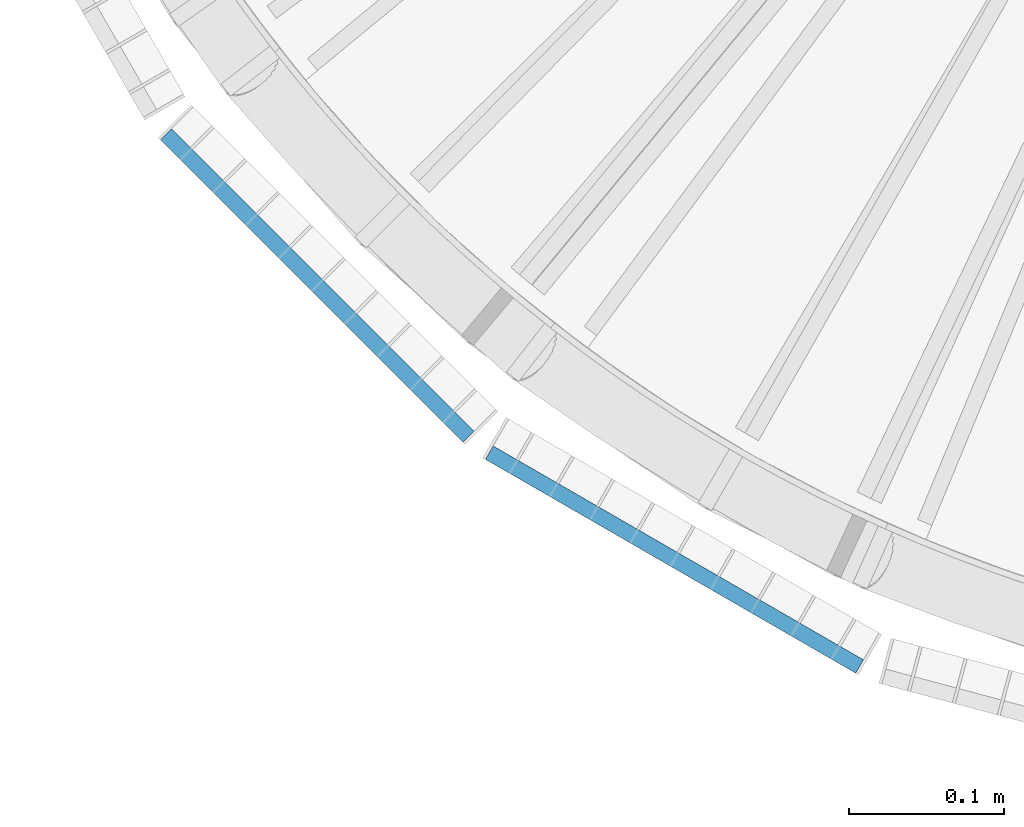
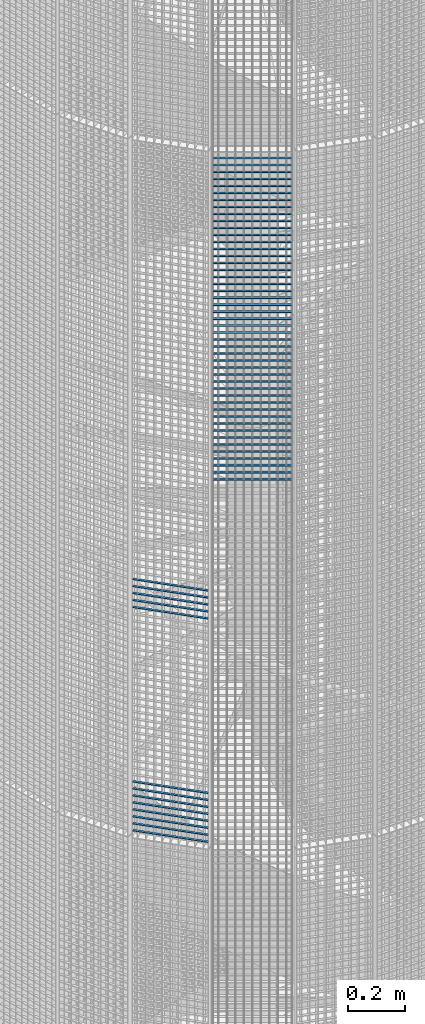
# One storey, part 345 of 1148: 60 beams, 2 elements without a shape of their own.
"""IFC2X3 building model written with IfcOpenShell, lengths in millimetres."""

import ifcopenshell
import ifcopenshell.guid

model = None  # the IFC model being written
_history = None  # IfcOwnerHistory: only IFC2X3 demands one
_inside = {}  # id of a spatial element -> (the spatial element, [elements in it])
_under = {}  # id of a project, library or spatial element -> (it, [spatial elements below it])
_declared = {}  # id of a project -> (the project, [libraries it declares])
_typed = {}  # id of a type object -> (the type object, [elements of that type])
_made_of = {}  # id of a material, layer set ... -> (it, [elements and type objects made of it])


def new_model(schema):
    """Start an empty IFC model of exactly this schema.

    Asked for "IFC4X3", IfcOpenShell would pick the latest addendum, in which some entities
    have other attributes; the version numbers below select the first issue.
    IFC2X3 requires an IfcOwnerHistory on every rooted entity: one is made here for all.
    """
    global model, _history
    if schema == "IFC4X3":
        model = ifcopenshell.file(schema_version=(4, 3, 0, 0))
    else:
        model = ifcopenshell.file(schema=schema)
    _inside.clear()
    _under.clear()
    _declared.clear()
    _typed.clear()
    _made_of.clear()
    _history = None
    if model.schema == "IFC2X3":
        org = make("IfcOrganization", Name="unknown")
        user = make(
            "IfcPersonAndOrganization",
            ThePerson=make("IfcPerson", FamilyName="unknown"),
            TheOrganization=org,
        )
        app = make(
            "IfcApplication",
            ApplicationDeveloper=org,
            Version="unknown",
            ApplicationFullName="unknown",
            ApplicationIdentifier="unknown",
        )
        _history = make(
            "IfcOwnerHistory",
            OwningUser=user,
            OwningApplication=app,
            ChangeAction="ADDED",
            CreationDate=0,
        )
    return model


def make(cls, **values):
    """One entity of the class cls with the attributes given. An attribute that is None is left unset."""
    return model.create_entity(
        cls, **{name: value for name, value in values.items() if value is not None}
    )


def rooted(cls, **values):
    """An entity with a GlobalId (a new one), such as an element, a storey or a relation."""
    return make(cls, GlobalId=ifcopenshell.guid.new(), OwnerHistory=_history, **values)


def si_unit(unit_type, name, prefix=None):
    """IfcSIUnit, for example si_unit("LENGTHUNIT", "METRE", prefix="MILLI")."""
    return make("IfcSIUnit", UnitType=unit_type, Prefix=prefix, Name=name)


def assignment(units):
    """IfcUnitAssignment: the units of a project."""
    return None if units is None else make("IfcUnitAssignment", Units=units)


def point(xyz):
    """IfcCartesianPoint."""
    return None if xyz is None else make("IfcCartesianPoint", Coordinates=xyz)


def direction(xyz):
    """IfcDirection."""
    return None if xyz is None else make("IfcDirection", DirectionRatios=xyz)


def frame(location, z_axis=None, x_axis=None):
    """IfcAxis2Placement3D, a coordinate frame: its origin and axes. An axis left out is left unset."""
    return make(
        "IfcAxis2Placement3D",
        Location=point(location),
        Axis=direction(z_axis),
        RefDirection=direction(x_axis),
    )


def frame_2d(location, x_axis=None):
    """IfcAxis2Placement2D, a coordinate frame in the plane: its origin and x axis."""
    return make(
        "IfcAxis2Placement2D", Location=point(location), RefDirection=direction(x_axis)
    )


def origin_with_axes():
    """The frame at (0, 0, 0) with the z axis (0, 0, 1) and the x axis (1, 0, 0) written out."""
    return frame((0.0, 0.0, 0.0), z_axis=(0.0, 0.0, 1.0), x_axis=(1.0, 0.0, 0.0))


def origin_2d_with_axis():
    """The frame at (0, 0) in the plane with the x axis (1, 0) written out."""
    return frame_2d((0.0, 0.0), x_axis=(1.0, 0.0))


def place(relative_to, where):
    """IfcLocalPlacement: puts the frame where relative to a parent placement (None: the world)."""
    return make(
        "IfcLocalPlacement", PlacementRelTo=relative_to, RelativePlacement=where
    )


def context(
    kind, dimensions, precision=None, world=None, true_north=None, identifier=None
):
    """IfcGeometricRepresentationContext, for example the 3D "Model" context."""
    return make(
        "IfcGeometricRepresentationContext",
        ContextIdentifier=identifier,
        ContextType=kind,
        CoordinateSpaceDimension=dimensions,
        Precision=precision,
        WorldCoordinateSystem=world,
        TrueNorth=true_north,
    )


def subcontext(parent, identifier, kind, view, scale=None):
    """IfcGeometricRepresentationSubContext, for example "Body" below "Model"."""
    return make(
        "IfcGeometricRepresentationSubContext",
        ContextIdentifier=identifier,
        ContextType=kind,
        ParentContext=parent,
        TargetScale=scale,
        TargetView=view,
    )


def project(units=None, contexts=None):
    """IfcProject with its units and contexts."""
    return rooted(
        "IfcProject",
        Name="project",
        RepresentationContexts=contexts,
        UnitsInContext=assignment(units),
    )


def spatial(cls, under=None, at=None, **own):
    """A site, building, storey or space (cls), placed at a placement, below another one or the project."""
    s = rooted(cls, ObjectPlacement=at, **own)
    if under is not None:
        _under.setdefault(under.id(), (under, []))[1].append(s)
    return s


def profile(cls, at=None, kind="AREA", **sizes):
    """A parametric profile (cls). Its sizes go by their IFC names, for example OverallWidth=200.0."""
    return make(cls, ProfileType=kind, Position=at, **sizes)


def rectangle(**sizes):
    """IfcRectangleProfileDef."""
    return profile("IfcRectangleProfileDef", **sizes)


def extrude(swept, where, along, depth):
    """IfcExtrudedAreaSolid: the profile swept, set in the frame where, extruded along a direction by depth."""
    return make(
        "IfcExtrudedAreaSolid",
        SweptArea=swept,
        Position=where,
        ExtrudedDirection=direction(along),
        Depth=depth,
    )


def shape(context_of_items, identifier, shape_type, items):
    """IfcShapeRepresentation: the items that make up one representation, for example the "Body"."""
    return make(
        "IfcShapeRepresentation",
        ContextOfItems=context_of_items,
        RepresentationIdentifier=identifier,
        RepresentationType=shape_type,
        Items=items,
    )


def material(Name=None, Category=None):
    """IfcMaterial."""
    return make("IfcMaterial", Name=Name, Category=Category)


def made_of(thing, what):
    """Note that an element or type object is made of a material, layer set ...; save() writes the relation."""
    if what is not None:
        _made_of.setdefault(what.id(), (what, []))[1].append(thing)
    return thing


def type_object(cls, material=None, **own):
    """A type object (cls), such as IfcWallType, which elements share."""
    return made_of(rooted(cls, **own), material)


def element(
    cls,
    number,
    at=None,
    inside=None,
    cuts=None,
    type_object=None,
    material=None,
    context=None,
    identifier="Body",
    shape_type=None,
    held_by="IfcProductDefinitionShape",
    body=None,
    shapes=None,
    **own,
):
    """One element of the class cls, such as IfcWall. Its Tag is "e" and its number.

    at: its placement. inside: the storey or other place that contains it. cuts: it is an
    opening in that element (IfcRelVoidsElement). A single representation is given by context,
    identifier, shape_type and body (its items); several are given by shapes. held_by: the class
    of the entity that holds the representations. save() writes the other relations.
    """
    e = rooted(cls, Tag="e%d" % number, ObjectPlacement=at, **own)
    if body is not None:
        shapes = [shape(context, identifier, shape_type, body)]
    if shapes is not None:
        e.Representation = make(held_by, Representations=shapes)
    if inside is not None:
        _inside.setdefault(inside.id(), (inside, []))[1].append(e)
    if cuts is not None:
        rooted(
            "IfcRelVoidsElement", RelatingBuildingElement=cuts, RelatedOpeningElement=e
        )
    if type_object is not None:
        _typed.setdefault(type_object.id(), (type_object, []))[1].append(e)
    return made_of(e, material)


def aggregate(whole, parts):
    """IfcRelAggregates: a whole, such as a stair, and the parts it consists of."""
    return rooted("IfcRelAggregates", RelatingObject=whole, RelatedObjects=parts)


def save(model, path):
    """Write the relations noted so far, then the file.

    IfcRelAggregates (storeys below a building ...), IfcRelContainedInSpatialStructure (elements
    in a storey), IfcRelDefinesByType, IfcRelAssociatesMaterial and IfcRelDeclares: one each for
    every whole, place, type object, material and project.
    """
    for whole, parts in _under.values():
        aggregate(whole, parts)
    for where, things in _inside.values():
        rooted(
            "IfcRelContainedInSpatialStructure",
            RelatedElements=things,
            RelatingStructure=where,
        )
    for kind, things in _typed.values():
        rooted("IfcRelDefinesByType", RelatedObjects=things, RelatingType=kind)
    for what, things in _made_of.values():
        rooted("IfcRelAssociatesMaterial", RelatedObjects=things, RelatingMaterial=what)
    for by, libraries in _declared.values():
        rooted("IfcRelDeclares", RelatingContext=by, RelatedDefinitions=libraries)
    model.write(path)


model = new_model("IFC2X3")

# Units and contexts
model_context = context("Model", 3, precision=1e-05, world=origin_with_axes())
body_context = subcontext(model_context, "Body", "Model", "MODEL_VIEW")
ifc_project = project(units=[si_unit("LENGTHUNIT", "METRE", prefix="MILLI"), si_unit("AREAUNIT", "SQUARE_METRE"), si_unit("VOLUMEUNIT", "CUBIC_METRE"), si_unit("MASSUNIT", "GRAM", prefix="KILO"), si_unit("TIMEUNIT", "SECOND"), si_unit("PLANEANGLEUNIT", "RADIAN"), si_unit("SOLIDANGLEUNIT", "STERADIAN"), si_unit("THERMODYNAMICTEMPERATUREUNIT", "DEGREE_CELSIUS"), si_unit("LUMINOUSINTENSITYUNIT", "LUMEN")], contexts=[model_context])

# Site, building, storey
site_placement = place(None, origin_with_axes())
site = spatial("IfcSite", under=ifc_project, at=site_placement, Name="Undefined", CompositionType="ELEMENT")
building_placement = place(site_placement, origin_with_axes())
building = spatial("IfcBuilding", under=site, at=building_placement, Name="Undefined", CompositionType="ELEMENT")
storey_placement = place(building_placement, origin_with_axes())
storey = spatial("IfcBuildingStorey", under=building, at=storey_placement, Name="Undefined", CompositionType="ELEMENT", Elevation=0.0)

# Assembly, beams
assembly_1_placement = place(storey_placement, origin_with_axes())
assembly_1 = element("IfcElementAssembly", 1, at=assembly_1_placement, inside=storey, Name="BORDURE", AssemblyPlace="NOTDEFINED", PredefinedType="NOTDEFINED")
ifc_material = material(Name="STEEL/S235JR")
beam_type = type_object("IfcBeamType", Name="PL2*10", PredefinedType="NOTDEFINED")
beam_1_placement = place(assembly_1_placement, frame((20910.2286510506, -884.927168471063, 9990.0), z_axis=(-0.70710678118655, -0.707106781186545, 0.0), x_axis=(-0.707106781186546, 0.707106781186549, 0.0)))
beam_1 = element("IfcBeam", 2, at=beam_1_placement, type_object=beam_type, material=ifc_material, Name="ENTRETOISE", context=body_context, shape_type="SweptSolid", body=[
    extrude(rectangle(XDim=2.0, YDim=10.0, at=origin_2d_with_axis()), frame((275.999999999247, 9.09494701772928e-13, 1.53210777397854e-14), z_axis=(-1.0, 0.0, 0.0), x_axis=(0.0, -1.0, 0.0)), (0.0, 0.0, 1.0), 276.0),
])
beam_2_placement = place(assembly_1_placement, frame((20910.2286510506, -884.927168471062, 9240.0), z_axis=(-0.70710678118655, -0.707106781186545, 0.0), x_axis=(-0.707106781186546, 0.707106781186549, 0.0)))
beam_2 = element("IfcBeam", 3, at=beam_2_placement, type_object=beam_type, material=ifc_material, Name="ENTRETOISE", context=body_context, shape_type="SweptSolid", body=[
    extrude(rectangle(XDim=2.0, YDim=10.0, at=origin_2d_with_axis()), frame((275.999999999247, 9.09494701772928e-13, 1.53210777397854e-14), z_axis=(-1.0, 0.0, 0.0), x_axis=(0.0, -1.0, 0.0)), (0.0, 0.0, 1.0), 276.0),
])
beam_3_placement = place(assembly_1_placement, frame((20910.2286510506, -884.927168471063, 10020.0), z_axis=(-0.70710678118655, -0.707106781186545, 0.0), x_axis=(-0.707106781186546, 0.707106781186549, 0.0)))
beam_3 = element("IfcBeam", 4, at=beam_3_placement, type_object=beam_type, material=ifc_material, Name="ENTRETOISE", context=body_context, shape_type="SweptSolid", body=[
    extrude(rectangle(XDim=2.0, YDim=10.0, at=origin_2d_with_axis()), frame((275.999999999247, 9.09494701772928e-13, 1.53210777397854e-14), z_axis=(-1.0, 0.0, 0.0), x_axis=(0.0, -1.0, 0.0)), (0.0, 0.0, 1.0), 276.0),
])
beam_4_placement = place(assembly_1_placement, frame((20910.2286510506, -884.927168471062, 9210.0), z_axis=(-0.70710678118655, -0.707106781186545, 0.0), x_axis=(-0.707106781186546, 0.707106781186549, 0.0)))
beam_4 = element("IfcBeam", 5, at=beam_4_placement, type_object=beam_type, material=ifc_material, Name="ENTRETOISE", context=body_context, shape_type="SweptSolid", body=[
    extrude(rectangle(XDim=2.0, YDim=10.0, at=origin_2d_with_axis()), frame((275.999999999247, 9.09494701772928e-13, 1.53210777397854e-14), z_axis=(-1.0, 0.0, 0.0), x_axis=(0.0, -1.0, 0.0)), (0.0, 0.0, 1.0), 276.0),
])
beam_5_placement = place(assembly_1_placement, frame((20910.2286510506, -884.927168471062, 9180.0), z_axis=(-0.70710678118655, -0.707106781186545, 0.0), x_axis=(-0.707106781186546, 0.707106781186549, 0.0)))
beam_5 = element("IfcBeam", 6, at=beam_5_placement, type_object=beam_type, material=ifc_material, Name="ENTRETOISE", context=body_context, shape_type="SweptSolid", body=[
    extrude(rectangle(XDim=2.0, YDim=10.0, at=origin_2d_with_axis()), frame((275.999999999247, 9.09494701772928e-13, 1.53210777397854e-14), z_axis=(-1.0, 0.0, 0.0), x_axis=(0.0, -1.0, 0.0)), (0.0, 0.0, 1.0), 276.0),
])
beam_6_placement = place(assembly_1_placement, frame((20910.2286510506, -884.927168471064, 10050.0), z_axis=(-0.70710678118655, -0.707106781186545, 0.0), x_axis=(-0.707106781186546, 0.707106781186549, 0.0)))
beam_6 = element("IfcBeam", 7, at=beam_6_placement, type_object=beam_type, material=ifc_material, Name="ENTRETOISE", context=body_context, shape_type="SweptSolid", body=[
    extrude(rectangle(XDim=2.0, YDim=10.0, at=origin_2d_with_axis()), frame((275.999999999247, 9.09494701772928e-13, 1.53210777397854e-14), z_axis=(-1.0, 0.0, 0.0), x_axis=(0.0, -1.0, 0.0)), (0.0, 0.0, 1.0), 276.0),
])
beam_7_placement = place(assembly_1_placement, frame((20910.2286510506, -884.927168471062, 9150.0), z_axis=(-0.70710678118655, -0.707106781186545, 0.0), x_axis=(-0.707106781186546, 0.707106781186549, 0.0)))
beam_7 = element("IfcBeam", 8, at=beam_7_placement, type_object=beam_type, material=ifc_material, Name="ENTRETOISE", context=body_context, shape_type="SweptSolid", body=[
    extrude(rectangle(XDim=2.0, YDim=10.0, at=origin_2d_with_axis()), frame((275.999999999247, 9.09494701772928e-13, 1.53210777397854e-14), z_axis=(-1.0, 0.0, 0.0), x_axis=(0.0, -1.0, 0.0)), (0.0, 0.0, 1.0), 276.0),
])
beam_8_placement = place(assembly_1_placement, frame((20910.2286510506, -884.927168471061, 9120.0), z_axis=(-0.70710678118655, -0.707106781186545, 0.0), x_axis=(-0.707106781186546, 0.707106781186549, 0.0)))
beam_8 = element("IfcBeam", 9, at=beam_8_placement, type_object=beam_type, material=ifc_material, Name="ENTRETOISE", context=body_context, shape_type="SweptSolid", body=[
    extrude(rectangle(XDim=2.0, YDim=10.0, at=origin_2d_with_axis()), frame((275.999999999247, 9.09494701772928e-13, 1.53210777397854e-14), z_axis=(-1.0, 0.0, 0.0), x_axis=(0.0, -1.0, 0.0)), (0.0, 0.0, 1.0), 276.0),
])
beam_9_placement = place(assembly_1_placement, frame((20910.2286510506, -884.927168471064, 10080.0), z_axis=(-0.70710678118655, -0.707106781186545, 0.0), x_axis=(-0.707106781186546, 0.707106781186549, 0.0)))
beam_9 = element("IfcBeam", 10, at=beam_9_placement, type_object=beam_type, material=ifc_material, Name="ENTRETOISE", context=body_context, shape_type="SweptSolid", body=[
    extrude(rectangle(XDim=2.0, YDim=10.0, at=origin_2d_with_axis()), frame((275.999999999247, 9.09494701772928e-13, 1.53210777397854e-14), z_axis=(-1.0, 0.0, 0.0), x_axis=(0.0, -1.0, 0.0)), (0.0, 0.0, 1.0), 276.0),
])
beam_10_placement = place(assembly_1_placement, frame((20910.2286510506, -884.927168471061, 9090.0), z_axis=(-0.70710678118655, -0.707106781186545, 0.0), x_axis=(-0.707106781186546, 0.707106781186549, 0.0)))
beam_10 = element("IfcBeam", 11, at=beam_10_placement, type_object=beam_type, material=ifc_material, Name="ENTRETOISE", context=body_context, shape_type="SweptSolid", body=[
    extrude(rectangle(XDim=2.0, YDim=10.0, at=origin_2d_with_axis()), frame((275.999999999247, 9.09494701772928e-13, 1.53210777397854e-14), z_axis=(-1.0, 0.0, 0.0), x_axis=(0.0, -1.0, 0.0)), (0.0, 0.0, 1.0), 276.0),
])
beam_11_placement = place(assembly_1_placement, frame((20910.2286510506, -884.927168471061, 9060.0), z_axis=(-0.70710678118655, -0.707106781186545, 0.0), x_axis=(-0.707106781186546, 0.707106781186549, 0.0)))
beam_11 = element("IfcBeam", 12, at=beam_11_placement, type_object=beam_type, material=ifc_material, Name="ENTRETOISE", context=body_context, shape_type="SweptSolid", body=[
    extrude(rectangle(XDim=2.0, YDim=10.0, at=origin_2d_with_axis()), frame((275.999999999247, 9.09494701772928e-13, 1.53210777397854e-14), z_axis=(-1.0, 0.0, 0.0), x_axis=(0.0, -1.0, 0.0)), (0.0, 0.0, 1.0), 276.0),
])
beam_12_placement = place(assembly_1_placement, frame((20910.2286510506, -884.927168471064, 10110.0), z_axis=(-0.70710678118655, -0.707106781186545, 0.0), x_axis=(-0.707106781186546, 0.707106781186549, 0.0)))
beam_12 = element("IfcBeam", 13, at=beam_12_placement, type_object=beam_type, material=ifc_material, Name="ENTRETOISE", context=body_context, shape_type="SweptSolid", body=[
    extrude(rectangle(XDim=2.0, YDim=10.0, at=origin_2d_with_axis()), frame((275.999999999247, 9.09494701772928e-13, 1.53210777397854e-14), z_axis=(-1.0, 0.0, 0.0), x_axis=(0.0, -1.0, 0.0)), (0.0, 0.0, 1.0), 276.0),
])
beam_13_placement = place(assembly_1_placement, frame((20910.2286510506, -884.92716847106, 9030.0), z_axis=(-0.70710678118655, -0.707106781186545, 0.0), x_axis=(-0.707106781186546, 0.707106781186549, 0.0)))
beam_13 = element("IfcBeam", 14, at=beam_13_placement, type_object=beam_type, material=ifc_material, Name="ENTRETOISE", context=body_context, shape_type="SweptSolid", body=[
    extrude(rectangle(XDim=2.0, YDim=10.0, at=origin_2d_with_axis()), frame((275.999999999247, 9.09494701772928e-13, 1.53210777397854e-14), z_axis=(-1.0, 0.0, 0.0), x_axis=(0.0, -1.0, 0.0)), (0.0, 0.0, 1.0), 276.0),
])
aggregate(assembly_1, [beam_1, beam_2, beam_3, beam_4, beam_5, beam_6, beam_7, beam_8, beam_9, beam_10, beam_11, beam_12, beam_13])

assembly_2_placement = place(storey_placement, origin_with_axes())
assembly_2 = element("IfcElementAssembly", 15, at=assembly_2_placement, inside=storey, Name="BORDURE", AssemblyPlace="NOTDEFINED", PredefinedType="NOTDEFINED")
beam_14_placement = place(assembly_2_placement, frame((21162.7680445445, -1033.29996828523, 11970.0), z_axis=(-0.49999999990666, -0.866025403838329, 0.0), x_axis=(-0.866025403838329, 0.499999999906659, 0.0)))
beam_14 = element("IfcBeam", 16, at=beam_14_placement, type_object=beam_type, material=ifc_material, Name="ENTRETOISE", context=body_context, shape_type="SweptSolid", body=[
    extrude(rectangle(XDim=2.0, YDim=10.0, at=origin_2d_with_axis()), frame((275.999999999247, 9.09494701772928e-13, 1.53210777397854e-14), z_axis=(-1.0, 0.0, 0.0), x_axis=(0.0, -1.0, 0.0)), (0.0, 0.0, 1.0), 276.0),
])
beam_15_placement = place(assembly_2_placement, frame((21162.7680445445, -1033.29996828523, 11940.0), z_axis=(-0.49999999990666, -0.866025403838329, 0.0), x_axis=(-0.866025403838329, 0.499999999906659, 0.0)))
beam_15 = element("IfcBeam", 17, at=beam_15_placement, type_object=beam_type, material=ifc_material, Name="ENTRETOISE", context=body_context, shape_type="SweptSolid", body=[
    extrude(rectangle(XDim=2.0, YDim=10.0, at=origin_2d_with_axis()), frame((275.999999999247, 9.09494701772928e-13, 1.53210777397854e-14), z_axis=(-1.0, 0.0, 0.0), x_axis=(0.0, -1.0, 0.0)), (0.0, 0.0, 1.0), 276.0),
])
beam_16_placement = place(assembly_2_placement, frame((21162.7680445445, -1033.29996828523, 11910.0), z_axis=(-0.49999999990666, -0.866025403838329, 0.0), x_axis=(-0.866025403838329, 0.499999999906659, 0.0)))
beam_16 = element("IfcBeam", 18, at=beam_16_placement, type_object=beam_type, material=ifc_material, Name="ENTRETOISE", context=body_context, shape_type="SweptSolid", body=[
    extrude(rectangle(XDim=2.0, YDim=10.0, at=origin_2d_with_axis()), frame((275.999999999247, 9.09494701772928e-13, 1.53210777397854e-14), z_axis=(-1.0, 0.0, 0.0), x_axis=(0.0, -1.0, 0.0)), (0.0, 0.0, 1.0), 276.0),
])
beam_17_placement = place(assembly_2_placement, frame((21162.7680445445, -1033.29996828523, 11880.0), z_axis=(-0.49999999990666, -0.866025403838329, 0.0), x_axis=(-0.866025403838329, 0.499999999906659, 0.0)))
beam_17 = element("IfcBeam", 19, at=beam_17_placement, type_object=beam_type, material=ifc_material, Name="ENTRETOISE", context=body_context, shape_type="SweptSolid", body=[
    extrude(rectangle(XDim=2.0, YDim=10.0, at=origin_2d_with_axis()), frame((275.999999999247, 9.09494701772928e-13, 1.53210777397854e-14), z_axis=(-1.0, 0.0, 0.0), x_axis=(0.0, -1.0, 0.0)), (0.0, 0.0, 1.0), 276.0),
])
beam_18_placement = place(assembly_2_placement, frame((21162.7680445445, -1033.29996828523, 11850.0), z_axis=(-0.49999999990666, -0.866025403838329, 0.0), x_axis=(-0.866025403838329, 0.499999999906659, 0.0)))
beam_18 = element("IfcBeam", 20, at=beam_18_placement, type_object=beam_type, material=ifc_material, Name="ENTRETOISE", context=body_context, shape_type="SweptSolid", body=[
    extrude(rectangle(XDim=2.0, YDim=10.0, at=origin_2d_with_axis()), frame((275.999999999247, 9.09494701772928e-13, 1.53210777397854e-14), z_axis=(-1.0, 0.0, 0.0), x_axis=(0.0, -1.0, 0.0)), (0.0, 0.0, 1.0), 276.0),
])
beam_19_placement = place(assembly_2_placement, frame((21162.7680445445, -1033.29996828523, 11820.0), z_axis=(-0.49999999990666, -0.866025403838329, 0.0), x_axis=(-0.866025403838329, 0.499999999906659, 0.0)))
beam_19 = element("IfcBeam", 21, at=beam_19_placement, type_object=beam_type, material=ifc_material, Name="ENTRETOISE", context=body_context, shape_type="SweptSolid", body=[
    extrude(rectangle(XDim=2.0, YDim=10.0, at=origin_2d_with_axis()), frame((275.999999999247, 9.09494701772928e-13, 1.53210777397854e-14), z_axis=(-1.0, 0.0, 0.0), x_axis=(0.0, -1.0, 0.0)), (0.0, 0.0, 1.0), 276.0),
])
beam_20_placement = place(assembly_2_placement, frame((21162.7680445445, -1033.29996828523, 11790.0), z_axis=(-0.49999999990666, -0.866025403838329, 0.0), x_axis=(-0.866025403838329, 0.499999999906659, 0.0)))
beam_20 = element("IfcBeam", 22, at=beam_20_placement, type_object=beam_type, material=ifc_material, Name="ENTRETOISE", context=body_context, shape_type="SweptSolid", body=[
    extrude(rectangle(XDim=2.0, YDim=10.0, at=origin_2d_with_axis()), frame((275.999999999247, 9.09494701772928e-13, 1.53210777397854e-14), z_axis=(-1.0, 0.0, 0.0), x_axis=(0.0, -1.0, 0.0)), (0.0, 0.0, 1.0), 276.0),
])
beam_21_placement = place(assembly_2_placement, frame((21162.7680445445, -1033.29996828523, 11760.0), z_axis=(-0.49999999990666, -0.866025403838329, 0.0), x_axis=(-0.866025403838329, 0.499999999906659, 0.0)))
beam_21 = element("IfcBeam", 23, at=beam_21_placement, type_object=beam_type, material=ifc_material, Name="ENTRETOISE", context=body_context, shape_type="SweptSolid", body=[
    extrude(rectangle(XDim=2.0, YDim=10.0, at=origin_2d_with_axis()), frame((275.999999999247, 9.09494701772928e-13, 1.53210777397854e-14), z_axis=(-1.0, 0.0, 0.0), x_axis=(0.0, -1.0, 0.0)), (0.0, 0.0, 1.0), 276.0),
])
beam_22_placement = place(assembly_2_placement, frame((21162.7680445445, -1033.29996828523, 11730.0), z_axis=(-0.49999999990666, -0.866025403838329, 0.0), x_axis=(-0.866025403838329, 0.499999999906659, 0.0)))
beam_22 = element("IfcBeam", 24, at=beam_22_placement, type_object=beam_type, material=ifc_material, Name="ENTRETOISE", context=body_context, shape_type="SweptSolid", body=[
    extrude(rectangle(XDim=2.0, YDim=10.0, at=origin_2d_with_axis()), frame((275.999999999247, 9.09494701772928e-13, 1.53210777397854e-14), z_axis=(-1.0, 0.0, 0.0), x_axis=(0.0, -1.0, 0.0)), (0.0, 0.0, 1.0), 276.0),
])
beam_23_placement = place(assembly_2_placement, frame((21162.7680445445, -1033.29996828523, 11700.0), z_axis=(-0.49999999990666, -0.866025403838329, 0.0), x_axis=(-0.866025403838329, 0.499999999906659, 0.0)))
beam_23 = element("IfcBeam", 25, at=beam_23_placement, type_object=beam_type, material=ifc_material, Name="ENTRETOISE", context=body_context, shape_type="SweptSolid", body=[
    extrude(rectangle(XDim=2.0, YDim=10.0, at=origin_2d_with_axis()), frame((275.999999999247, 9.09494701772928e-13, 1.53210777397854e-14), z_axis=(-1.0, 0.0, 0.0), x_axis=(0.0, -1.0, 0.0)), (0.0, 0.0, 1.0), 276.0),
])
beam_24_placement = place(assembly_2_placement, frame((21162.7680445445, -1033.29996828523, 11670.0), z_axis=(-0.49999999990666, -0.866025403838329, 0.0), x_axis=(-0.866025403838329, 0.499999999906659, 0.0)))
beam_24 = element("IfcBeam", 26, at=beam_24_placement, type_object=beam_type, material=ifc_material, Name="ENTRETOISE", context=body_context, shape_type="SweptSolid", body=[
    extrude(rectangle(XDim=2.0, YDim=10.0, at=origin_2d_with_axis()), frame((275.999999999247, 9.09494701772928e-13, 1.53210777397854e-14), z_axis=(-1.0, 0.0, 0.0), x_axis=(0.0, -1.0, 0.0)), (0.0, 0.0, 1.0), 276.0),
])
beam_25_placement = place(assembly_2_placement, frame((21162.7680445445, -1033.29996828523, 11640.0), z_axis=(-0.49999999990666, -0.866025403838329, 0.0), x_axis=(-0.866025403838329, 0.499999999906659, 0.0)))
beam_25 = element("IfcBeam", 27, at=beam_25_placement, type_object=beam_type, material=ifc_material, Name="ENTRETOISE", context=body_context, shape_type="SweptSolid", body=[
    extrude(rectangle(XDim=2.0, YDim=10.0, at=origin_2d_with_axis()), frame((275.999999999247, 9.09494701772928e-13, 1.53210777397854e-14), z_axis=(-1.0, 0.0, 0.0), x_axis=(0.0, -1.0, 0.0)), (0.0, 0.0, 1.0), 276.0),
])
beam_26_placement = place(assembly_2_placement, frame((21162.7680445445, -1033.29996828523, 11610.0), z_axis=(-0.49999999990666, -0.866025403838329, 0.0), x_axis=(-0.866025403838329, 0.499999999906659, 0.0)))
beam_26 = element("IfcBeam", 28, at=beam_26_placement, type_object=beam_type, material=ifc_material, Name="ENTRETOISE", context=body_context, shape_type="SweptSolid", body=[
    extrude(rectangle(XDim=2.0, YDim=10.0, at=origin_2d_with_axis()), frame((275.999999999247, 9.09494701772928e-13, 1.53210777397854e-14), z_axis=(-1.0, 0.0, 0.0), x_axis=(0.0, -1.0, 0.0)), (0.0, 0.0, 1.0), 276.0),
])
beam_27_placement = place(assembly_2_placement, frame((21162.7680445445, -1033.29996828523, 11580.0), z_axis=(-0.49999999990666, -0.866025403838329, 0.0), x_axis=(-0.866025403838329, 0.499999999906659, 0.0)))
beam_27 = element("IfcBeam", 29, at=beam_27_placement, type_object=beam_type, material=ifc_material, Name="ENTRETOISE", context=body_context, shape_type="SweptSolid", body=[
    extrude(rectangle(XDim=2.0, YDim=10.0, at=origin_2d_with_axis()), frame((275.999999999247, 9.09494701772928e-13, 1.53210777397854e-14), z_axis=(-1.0, 0.0, 0.0), x_axis=(0.0, -1.0, 0.0)), (0.0, 0.0, 1.0), 276.0),
])
beam_28_placement = place(assembly_2_placement, frame((21162.7680445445, -1033.29996828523, 11550.0), z_axis=(-0.49999999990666, -0.866025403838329, 0.0), x_axis=(-0.866025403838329, 0.499999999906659, 0.0)))
beam_28 = element("IfcBeam", 30, at=beam_28_placement, type_object=beam_type, material=ifc_material, Name="ENTRETOISE", context=body_context, shape_type="SweptSolid", body=[
    extrude(rectangle(XDim=2.0, YDim=10.0, at=origin_2d_with_axis()), frame((275.999999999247, 9.09494701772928e-13, 1.53210777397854e-14), z_axis=(-1.0, 0.0, 0.0), x_axis=(0.0, -1.0, 0.0)), (0.0, 0.0, 1.0), 276.0),
])
beam_29_placement = place(assembly_2_placement, frame((21162.7680445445, -1033.29996828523, 11520.0), z_axis=(-0.49999999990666, -0.866025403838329, 0.0), x_axis=(-0.866025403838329, 0.499999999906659, 0.0)))
beam_29 = element("IfcBeam", 31, at=beam_29_placement, type_object=beam_type, material=ifc_material, Name="ENTRETOISE", context=body_context, shape_type="SweptSolid", body=[
    extrude(rectangle(XDim=2.0, YDim=10.0, at=origin_2d_with_axis()), frame((275.999999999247, 9.09494701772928e-13, 1.53210777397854e-14), z_axis=(-1.0, 0.0, 0.0), x_axis=(0.0, -1.0, 0.0)), (0.0, 0.0, 1.0), 276.0),
])
beam_30_placement = place(assembly_2_placement, frame((21162.7680445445, -1033.29996828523, 11490.0), z_axis=(-0.49999999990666, -0.866025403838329, 0.0), x_axis=(-0.866025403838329, 0.499999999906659, 0.0)))
beam_30 = element("IfcBeam", 32, at=beam_30_placement, type_object=beam_type, material=ifc_material, Name="ENTRETOISE", context=body_context, shape_type="SweptSolid", body=[
    extrude(rectangle(XDim=2.0, YDim=10.0, at=origin_2d_with_axis()), frame((275.999999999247, 9.09494701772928e-13, 1.53210777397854e-14), z_axis=(-1.0, 0.0, 0.0), x_axis=(0.0, -1.0, 0.0)), (0.0, 0.0, 1.0), 276.0),
])
beam_31_placement = place(assembly_2_placement, frame((21162.7680445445, -1033.29996828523, 11460.0), z_axis=(-0.49999999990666, -0.866025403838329, 0.0), x_axis=(-0.866025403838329, 0.499999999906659, 0.0)))
beam_31 = element("IfcBeam", 33, at=beam_31_placement, type_object=beam_type, material=ifc_material, Name="ENTRETOISE", context=body_context, shape_type="SweptSolid", body=[
    extrude(rectangle(XDim=2.0, YDim=10.0, at=origin_2d_with_axis()), frame((275.999999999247, 9.09494701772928e-13, 1.53210777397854e-14), z_axis=(-1.0, 0.0, 0.0), x_axis=(0.0, -1.0, 0.0)), (0.0, 0.0, 1.0), 276.0),
])
beam_32_placement = place(assembly_2_placement, frame((21162.7680445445, -1033.29996828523, 11430.0), z_axis=(-0.49999999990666, -0.866025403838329, 0.0), x_axis=(-0.866025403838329, 0.499999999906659, 0.0)))
beam_32 = element("IfcBeam", 34, at=beam_32_placement, type_object=beam_type, material=ifc_material, Name="ENTRETOISE", context=body_context, shape_type="SweptSolid", body=[
    extrude(rectangle(XDim=2.0, YDim=10.0, at=origin_2d_with_axis()), frame((275.999999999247, 9.09494701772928e-13, 1.53210777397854e-14), z_axis=(-1.0, 0.0, 0.0), x_axis=(0.0, -1.0, 0.0)), (0.0, 0.0, 1.0), 276.0),
])
beam_33_placement = place(assembly_2_placement, frame((21162.7680445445, -1033.29996828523, 11400.0), z_axis=(-0.49999999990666, -0.866025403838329, 0.0), x_axis=(-0.866025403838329, 0.499999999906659, 0.0)))
beam_33 = element("IfcBeam", 35, at=beam_33_placement, type_object=beam_type, material=ifc_material, Name="ENTRETOISE", context=body_context, shape_type="SweptSolid", body=[
    extrude(rectangle(XDim=2.0, YDim=10.0, at=origin_2d_with_axis()), frame((275.999999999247, 9.09494701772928e-13, 1.53210777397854e-14), z_axis=(-1.0, 0.0, 0.0), x_axis=(0.0, -1.0, 0.0)), (0.0, 0.0, 1.0), 276.0),
])
beam_34_placement = place(assembly_2_placement, frame((21162.7680445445, -1033.29996828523, 11370.0), z_axis=(-0.49999999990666, -0.866025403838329, 0.0), x_axis=(-0.866025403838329, 0.499999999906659, 0.0)))
beam_34 = element("IfcBeam", 36, at=beam_34_placement, type_object=beam_type, material=ifc_material, Name="ENTRETOISE", context=body_context, shape_type="SweptSolid", body=[
    extrude(rectangle(XDim=2.0, YDim=10.0, at=origin_2d_with_axis()), frame((275.999999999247, 9.09494701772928e-13, 1.53210777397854e-14), z_axis=(-1.0, 0.0, 0.0), x_axis=(0.0, -1.0, 0.0)), (0.0, 0.0, 1.0), 276.0),
])
beam_35_placement = place(assembly_2_placement, frame((21162.7680445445, -1033.29996828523, 11340.0), z_axis=(-0.49999999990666, -0.866025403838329, 0.0), x_axis=(-0.866025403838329, 0.499999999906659, 0.0)))
beam_35 = element("IfcBeam", 37, at=beam_35_placement, type_object=beam_type, material=ifc_material, Name="ENTRETOISE", context=body_context, shape_type="SweptSolid", body=[
    extrude(rectangle(XDim=2.0, YDim=10.0, at=origin_2d_with_axis()), frame((275.999999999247, 9.09494701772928e-13, 1.53210777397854e-14), z_axis=(-1.0, 0.0, 0.0), x_axis=(0.0, -1.0, 0.0)), (0.0, 0.0, 1.0), 276.0),
])
beam_36_placement = place(assembly_2_placement, frame((21162.7680445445, -1033.29996828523, 11310.0), z_axis=(-0.49999999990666, -0.866025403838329, 0.0), x_axis=(-0.866025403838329, 0.499999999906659, 0.0)))
beam_36 = element("IfcBeam", 38, at=beam_36_placement, type_object=beam_type, material=ifc_material, Name="ENTRETOISE", context=body_context, shape_type="SweptSolid", body=[
    extrude(rectangle(XDim=2.0, YDim=10.0, at=origin_2d_with_axis()), frame((275.999999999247, 9.09494701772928e-13, 1.53210777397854e-14), z_axis=(-1.0, 0.0, 0.0), x_axis=(0.0, -1.0, 0.0)), (0.0, 0.0, 1.0), 276.0),
])
beam_37_placement = place(assembly_2_placement, frame((21162.7680445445, -1033.29996828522, 11280.0), z_axis=(-0.49999999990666, -0.866025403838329, 0.0), x_axis=(-0.866025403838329, 0.499999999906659, 0.0)))
beam_37 = element("IfcBeam", 39, at=beam_37_placement, type_object=beam_type, material=ifc_material, Name="ENTRETOISE", context=body_context, shape_type="SweptSolid", body=[
    extrude(rectangle(XDim=2.0, YDim=10.0, at=origin_2d_with_axis()), frame((275.999999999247, 9.09494701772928e-13, 1.53210777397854e-14), z_axis=(-1.0, 0.0, 0.0), x_axis=(0.0, -1.0, 0.0)), (0.0, 0.0, 1.0), 276.0),
])
beam_38_placement = place(assembly_2_placement, frame((21162.7680445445, -1033.29996828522, 11250.0), z_axis=(-0.49999999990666, -0.866025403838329, 0.0), x_axis=(-0.866025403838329, 0.499999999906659, 0.0)))
beam_38 = element("IfcBeam", 40, at=beam_38_placement, type_object=beam_type, material=ifc_material, Name="ENTRETOISE", context=body_context, shape_type="SweptSolid", body=[
    extrude(rectangle(XDim=2.0, YDim=10.0, at=origin_2d_with_axis()), frame((275.999999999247, 9.09494701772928e-13, 1.53210777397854e-14), z_axis=(-1.0, 0.0, 0.0), x_axis=(0.0, -1.0, 0.0)), (0.0, 0.0, 1.0), 276.0),
])
beam_39_placement = place(assembly_2_placement, frame((21162.7680445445, -1033.29996828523, 11220.0), z_axis=(-0.49999999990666, -0.866025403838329, 0.0), x_axis=(-0.866025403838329, 0.499999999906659, 0.0)))
beam_39 = element("IfcBeam", 41, at=beam_39_placement, type_object=beam_type, material=ifc_material, Name="ENTRETOISE", context=body_context, shape_type="SweptSolid", body=[
    extrude(rectangle(XDim=2.0, YDim=10.0, at=origin_2d_with_axis()), frame((275.999999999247, 9.09494701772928e-13, 1.53210777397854e-14), z_axis=(-1.0, 0.0, 0.0), x_axis=(0.0, -1.0, 0.0)), (0.0, 0.0, 1.0), 276.0),
])
beam_40_placement = place(assembly_2_placement, frame((21162.7680445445, -1033.29996828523, 11190.0), z_axis=(-0.49999999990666, -0.866025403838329, 0.0), x_axis=(-0.866025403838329, 0.499999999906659, 0.0)))
beam_40 = element("IfcBeam", 42, at=beam_40_placement, type_object=beam_type, material=ifc_material, Name="ENTRETOISE", context=body_context, shape_type="SweptSolid", body=[
    extrude(rectangle(XDim=2.0, YDim=10.0, at=origin_2d_with_axis()), frame((275.999999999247, 9.09494701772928e-13, 1.53210777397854e-14), z_axis=(-1.0, 0.0, 0.0), x_axis=(0.0, -1.0, 0.0)), (0.0, 0.0, 1.0), 276.0),
])
beam_41_placement = place(assembly_2_placement, frame((21162.7680445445, -1033.29996828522, 11160.0), z_axis=(-0.49999999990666, -0.866025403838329, 0.0), x_axis=(-0.866025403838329, 0.499999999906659, 0.0)))
beam_41 = element("IfcBeam", 43, at=beam_41_placement, type_object=beam_type, material=ifc_material, Name="ENTRETOISE", context=body_context, shape_type="SweptSolid", body=[
    extrude(rectangle(XDim=2.0, YDim=10.0, at=origin_2d_with_axis()), frame((275.999999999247, 9.09494701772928e-13, 1.53210777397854e-14), z_axis=(-1.0, 0.0, 0.0), x_axis=(0.0, -1.0, 0.0)), (0.0, 0.0, 1.0), 276.0),
])
beam_42_placement = place(assembly_2_placement, frame((21162.7680445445, -1033.29996828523, 11130.0), z_axis=(-0.49999999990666, -0.866025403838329, 0.0), x_axis=(-0.866025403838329, 0.499999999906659, 0.0)))
beam_42 = element("IfcBeam", 44, at=beam_42_placement, type_object=beam_type, material=ifc_material, Name="ENTRETOISE", context=body_context, shape_type="SweptSolid", body=[
    extrude(rectangle(XDim=2.0, YDim=10.0, at=origin_2d_with_axis()), frame((275.999999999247, 9.09494701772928e-13, 1.53210777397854e-14), z_axis=(-1.0, 0.0, 0.0), x_axis=(0.0, -1.0, 0.0)), (0.0, 0.0, 1.0), 276.0),
])
beam_43_placement = place(assembly_2_placement, frame((21162.7680445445, -1033.29996828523, 11100.0), z_axis=(-0.49999999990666, -0.866025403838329, 0.0), x_axis=(-0.866025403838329, 0.499999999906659, 0.0)))
beam_43 = element("IfcBeam", 45, at=beam_43_placement, type_object=beam_type, material=ifc_material, Name="ENTRETOISE", context=body_context, shape_type="SweptSolid", body=[
    extrude(rectangle(XDim=2.0, YDim=10.0, at=origin_2d_with_axis()), frame((275.999999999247, 9.09494701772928e-13, 1.53210777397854e-14), z_axis=(-1.0, 0.0, 0.0), x_axis=(0.0, -1.0, 0.0)), (0.0, 0.0, 1.0), 276.0),
])
beam_44_placement = place(assembly_2_placement, frame((21162.7680445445, -1033.29996828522, 11070.0), z_axis=(-0.49999999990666, -0.866025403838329, 0.0), x_axis=(-0.866025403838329, 0.499999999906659, 0.0)))
beam_44 = element("IfcBeam", 46, at=beam_44_placement, type_object=beam_type, material=ifc_material, Name="ENTRETOISE", context=body_context, shape_type="SweptSolid", body=[
    extrude(rectangle(XDim=2.0, YDim=10.0, at=origin_2d_with_axis()), frame((275.999999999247, 9.09494701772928e-13, 1.53210777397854e-14), z_axis=(-1.0, 0.0, 0.0), x_axis=(0.0, -1.0, 0.0)), (0.0, 0.0, 1.0), 276.0),
])
beam_45_placement = place(assembly_2_placement, frame((21162.7680445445, -1033.29996828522, 11040.0), z_axis=(-0.49999999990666, -0.866025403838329, 0.0), x_axis=(-0.866025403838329, 0.499999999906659, 0.0)))
beam_45 = element("IfcBeam", 47, at=beam_45_placement, type_object=beam_type, material=ifc_material, Name="ENTRETOISE", context=body_context, shape_type="SweptSolid", body=[
    extrude(rectangle(XDim=2.0, YDim=10.0, at=origin_2d_with_axis()), frame((275.999999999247, 9.09494701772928e-13, 1.53210777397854e-14), z_axis=(-1.0, 0.0, 0.0), x_axis=(0.0, -1.0, 0.0)), (0.0, 0.0, 1.0), 276.0),
])
beam_46_placement = place(assembly_2_placement, frame((21162.7680445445, -1033.29996828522, 11010.0), z_axis=(-0.49999999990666, -0.866025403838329, 0.0), x_axis=(-0.866025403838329, 0.499999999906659, 0.0)))
beam_46 = element("IfcBeam", 48, at=beam_46_placement, type_object=beam_type, material=ifc_material, Name="ENTRETOISE", context=body_context, shape_type="SweptSolid", body=[
    extrude(rectangle(XDim=2.0, YDim=10.0, at=origin_2d_with_axis()), frame((275.999999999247, 9.09494701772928e-13, 1.53210777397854e-14), z_axis=(-1.0, 0.0, 0.0), x_axis=(0.0, -1.0, 0.0)), (0.0, 0.0, 1.0), 276.0),
])
beam_47_placement = place(assembly_2_placement, frame((21162.7680445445, -1033.29996828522, 10980.0), z_axis=(-0.49999999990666, -0.866025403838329, 0.0), x_axis=(-0.866025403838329, 0.499999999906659, 0.0)))
beam_47 = element("IfcBeam", 49, at=beam_47_placement, type_object=beam_type, material=ifc_material, Name="ENTRETOISE", context=body_context, shape_type="SweptSolid", body=[
    extrude(rectangle(XDim=2.0, YDim=10.0, at=origin_2d_with_axis()), frame((275.999999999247, 9.09494701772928e-13, 1.53210777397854e-14), z_axis=(-1.0, 0.0, 0.0), x_axis=(0.0, -1.0, 0.0)), (0.0, 0.0, 1.0), 276.0),
])
beam_48_placement = place(assembly_2_placement, frame((21162.7680445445, -1033.29996828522, 10950.0), z_axis=(-0.49999999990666, -0.866025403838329, 0.0), x_axis=(-0.866025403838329, 0.499999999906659, 0.0)))
beam_48 = element("IfcBeam", 50, at=beam_48_placement, type_object=beam_type, material=ifc_material, Name="ENTRETOISE", context=body_context, shape_type="SweptSolid", body=[
    extrude(rectangle(XDim=2.0, YDim=10.0, at=origin_2d_with_axis()), frame((275.999999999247, 9.09494701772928e-13, 1.53210777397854e-14), z_axis=(-1.0, 0.0, 0.0), x_axis=(0.0, -1.0, 0.0)), (0.0, 0.0, 1.0), 276.0),
])
beam_49_placement = place(assembly_2_placement, frame((21162.7680445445, -1033.29996828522, 10920.0), z_axis=(-0.49999999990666, -0.866025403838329, 0.0), x_axis=(-0.866025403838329, 0.499999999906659, 0.0)))
beam_49 = element("IfcBeam", 51, at=beam_49_placement, type_object=beam_type, material=ifc_material, Name="ENTRETOISE", context=body_context, shape_type="SweptSolid", body=[
    extrude(rectangle(XDim=2.0, YDim=10.0, at=origin_2d_with_axis()), frame((275.999999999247, 9.09494701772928e-13, 1.53210777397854e-14), z_axis=(-1.0, 0.0, 0.0), x_axis=(0.0, -1.0, 0.0)), (0.0, 0.0, 1.0), 276.0),
])
beam_50_placement = place(assembly_2_placement, frame((21162.7680445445, -1033.29996828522, 10890.0), z_axis=(-0.49999999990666, -0.866025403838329, 0.0), x_axis=(-0.866025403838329, 0.499999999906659, 0.0)))
beam_50 = element("IfcBeam", 52, at=beam_50_placement, type_object=beam_type, material=ifc_material, Name="ENTRETOISE", context=body_context, shape_type="SweptSolid", body=[
    extrude(rectangle(XDim=2.0, YDim=10.0, at=origin_2d_with_axis()), frame((275.999999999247, 9.09494701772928e-13, 1.53210777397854e-14), z_axis=(-1.0, 0.0, 0.0), x_axis=(0.0, -1.0, 0.0)), (0.0, 0.0, 1.0), 276.0),
])
beam_51_placement = place(assembly_2_placement, frame((21162.7680445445, -1033.29996828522, 10860.0), z_axis=(-0.49999999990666, -0.866025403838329, 0.0), x_axis=(-0.866025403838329, 0.499999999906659, 0.0)))
beam_51 = element("IfcBeam", 53, at=beam_51_placement, type_object=beam_type, material=ifc_material, Name="ENTRETOISE", context=body_context, shape_type="SweptSolid", body=[
    extrude(rectangle(XDim=2.0, YDim=10.0, at=origin_2d_with_axis()), frame((275.999999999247, 9.09494701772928e-13, 1.53210777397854e-14), z_axis=(-1.0, 0.0, 0.0), x_axis=(0.0, -1.0, 0.0)), (0.0, 0.0, 1.0), 276.0),
])
beam_52_placement = place(assembly_2_placement, frame((21162.7680445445, -1033.29996828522, 10830.0), z_axis=(-0.49999999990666, -0.866025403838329, 0.0), x_axis=(-0.866025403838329, 0.499999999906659, 0.0)))
beam_52 = element("IfcBeam", 54, at=beam_52_placement, type_object=beam_type, material=ifc_material, Name="ENTRETOISE", context=body_context, shape_type="SweptSolid", body=[
    extrude(rectangle(XDim=2.0, YDim=10.0, at=origin_2d_with_axis()), frame((275.999999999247, 9.09494701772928e-13, 1.53210777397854e-14), z_axis=(-1.0, 0.0, 0.0), x_axis=(0.0, -1.0, 0.0)), (0.0, 0.0, 1.0), 276.0),
])
beam_53_placement = place(assembly_2_placement, frame((21162.7680445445, -1033.29996828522, 10800.0), z_axis=(-0.49999999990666, -0.866025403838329, 0.0), x_axis=(-0.866025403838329, 0.499999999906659, 0.0)))
beam_53 = element("IfcBeam", 55, at=beam_53_placement, type_object=beam_type, material=ifc_material, Name="ENTRETOISE", context=body_context, shape_type="SweptSolid", body=[
    extrude(rectangle(XDim=2.0, YDim=10.0, at=origin_2d_with_axis()), frame((275.999999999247, 9.09494701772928e-13, 1.53210777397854e-14), z_axis=(-1.0, 0.0, 0.0), x_axis=(0.0, -1.0, 0.0)), (0.0, 0.0, 1.0), 276.0),
])
beam_54_placement = place(assembly_2_placement, frame((21162.7680445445, -1033.29996828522, 10770.0), z_axis=(-0.49999999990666, -0.866025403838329, 0.0), x_axis=(-0.866025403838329, 0.499999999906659, 0.0)))
beam_54 = element("IfcBeam", 56, at=beam_54_placement, type_object=beam_type, material=ifc_material, Name="ENTRETOISE", context=body_context, shape_type="SweptSolid", body=[
    extrude(rectangle(XDim=2.0, YDim=10.0, at=origin_2d_with_axis()), frame((275.999999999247, 9.09494701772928e-13, 1.53210777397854e-14), z_axis=(-1.0, 0.0, 0.0), x_axis=(0.0, -1.0, 0.0)), (0.0, 0.0, 1.0), 276.0),
])
beam_55_placement = place(assembly_2_placement, frame((21162.7680445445, -1033.29996828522, 10740.0), z_axis=(-0.49999999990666, -0.866025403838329, 0.0), x_axis=(-0.866025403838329, 0.499999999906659, 0.0)))
beam_55 = element("IfcBeam", 57, at=beam_55_placement, type_object=beam_type, material=ifc_material, Name="ENTRETOISE", context=body_context, shape_type="SweptSolid", body=[
    extrude(rectangle(XDim=2.0, YDim=10.0, at=origin_2d_with_axis()), frame((275.999999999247, 9.09494701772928e-13, 1.53210777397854e-14), z_axis=(-1.0, 0.0, 0.0), x_axis=(0.0, -1.0, 0.0)), (0.0, 0.0, 1.0), 276.0),
])
beam_56_placement = place(assembly_2_placement, frame((21162.7680445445, -1033.29996828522, 10710.0), z_axis=(-0.49999999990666, -0.866025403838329, 0.0), x_axis=(-0.866025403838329, 0.499999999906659, 0.0)))
beam_56 = element("IfcBeam", 58, at=beam_56_placement, type_object=beam_type, material=ifc_material, Name="ENTRETOISE", context=body_context, shape_type="SweptSolid", body=[
    extrude(rectangle(XDim=2.0, YDim=10.0, at=origin_2d_with_axis()), frame((275.999999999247, 9.09494701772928e-13, 1.53210777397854e-14), z_axis=(-1.0, 0.0, 0.0), x_axis=(0.0, -1.0, 0.0)), (0.0, 0.0, 1.0), 276.0),
])
beam_57_placement = place(assembly_2_placement, frame((21162.7680445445, -1033.29996828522, 10680.0), z_axis=(-0.49999999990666, -0.866025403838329, 0.0), x_axis=(-0.866025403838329, 0.499999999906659, 0.0)))
beam_57 = element("IfcBeam", 59, at=beam_57_placement, type_object=beam_type, material=ifc_material, Name="ENTRETOISE", context=body_context, shape_type="SweptSolid", body=[
    extrude(rectangle(XDim=2.0, YDim=10.0, at=origin_2d_with_axis()), frame((275.999999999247, 9.09494701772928e-13, 1.53210777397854e-14), z_axis=(-1.0, 0.0, 0.0), x_axis=(0.0, -1.0, 0.0)), (0.0, 0.0, 1.0), 276.0),
])
beam_58_placement = place(assembly_2_placement, frame((21162.7680445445, -1033.29996828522, 10650.0), z_axis=(-0.49999999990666, -0.866025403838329, 0.0), x_axis=(-0.866025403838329, 0.499999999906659, 0.0)))
beam_58 = element("IfcBeam", 60, at=beam_58_placement, type_object=beam_type, material=ifc_material, Name="ENTRETOISE", context=body_context, shape_type="SweptSolid", body=[
    extrude(rectangle(XDim=2.0, YDim=10.0, at=origin_2d_with_axis()), frame((275.999999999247, 9.09494701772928e-13, 1.53210777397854e-14), z_axis=(-1.0, 0.0, 0.0), x_axis=(0.0, -1.0, 0.0)), (0.0, 0.0, 1.0), 276.0),
])
beam_59_placement = place(assembly_2_placement, frame((21162.7680445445, -1033.29996828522, 10620.0), z_axis=(-0.49999999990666, -0.866025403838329, 0.0), x_axis=(-0.866025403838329, 0.499999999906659, 0.0)))
beam_59 = element("IfcBeam", 61, at=beam_59_placement, type_object=beam_type, material=ifc_material, Name="ENTRETOISE", context=body_context, shape_type="SweptSolid", body=[
    extrude(rectangle(XDim=2.0, YDim=10.0, at=origin_2d_with_axis()), frame((275.999999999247, 9.09494701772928e-13, 1.53210777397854e-14), z_axis=(-1.0, 0.0, 0.0), x_axis=(0.0, -1.0, 0.0)), (0.0, 0.0, 1.0), 276.0),
])
beam_60_placement = place(assembly_2_placement, frame((21162.7680445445, -1033.29996828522, 10590.0), z_axis=(-0.49999999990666, -0.866025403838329, 0.0), x_axis=(-0.866025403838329, 0.499999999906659, 0.0)))
beam_60 = element("IfcBeam", 62, at=beam_60_placement, type_object=beam_type, material=ifc_material, Name="ENTRETOISE", context=body_context, shape_type="SweptSolid", body=[
    extrude(rectangle(XDim=2.0, YDim=10.0, at=origin_2d_with_axis()), frame((275.999999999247, 9.09494701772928e-13, 1.53210777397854e-14), z_axis=(-1.0, 0.0, 0.0), x_axis=(0.0, -1.0, 0.0)), (0.0, 0.0, 1.0), 276.0),
])
aggregate(assembly_2, [beam_14, beam_15, beam_16, beam_17, beam_18, beam_19, beam_20, beam_21, beam_22, beam_23, beam_24, beam_25, beam_26, beam_27, beam_28, beam_29, beam_30, beam_31, beam_32, beam_33, beam_34, beam_35, beam_36, beam_37, beam_38, beam_39, beam_40, beam_41, beam_42, beam_43, beam_44, beam_45, beam_46, beam_47, beam_48, beam_49, beam_50, beam_51, beam_52, beam_53, beam_54, beam_55, beam_56, beam_57, beam_58, beam_59, beam_60])

save(model, "model.ifc")
